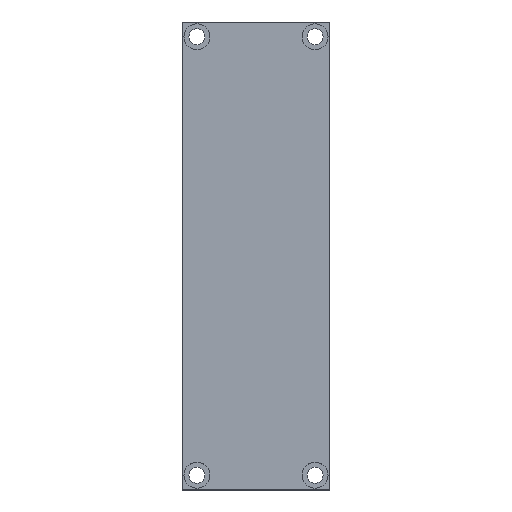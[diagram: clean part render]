
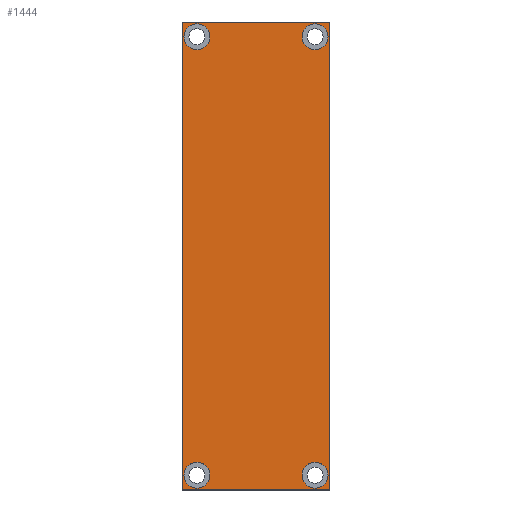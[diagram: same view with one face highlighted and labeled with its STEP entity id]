
A CAD part, top view. The second image highlights one B-rep face of the part: STEP entity #1444.
In plain terms, the highlighted planar face has unit normal (0, 0, 1).
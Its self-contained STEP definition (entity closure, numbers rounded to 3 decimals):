
#216=CARTESIAN_POINT('',(29.25,184.,5.0));
#217=VERTEX_POINT('',#216);
#233=CARTESIAN_POINT('',(18.75,184.,5.0));
#234=VERTEX_POINT('',#233);
#241=CARTESIAN_POINT('',(24.,184.,5.0));
#242=DIRECTION('',(0.0,0.0,-1.0));
#243=DIRECTION('',(1.0,0.0,0.0));
#244=AXIS2_PLACEMENT_3D('',#241,#242,#243);
#245=CIRCLE('',#244,5.25);
#246=EDGE_CURVE('',#217,#234,#245,.T.);
#342=CARTESIAN_POINT('',(29.25,6.,5.0));
#343=VERTEX_POINT('',#342);
#359=CARTESIAN_POINT('',(18.75,6.,5.0));
#360=VERTEX_POINT('',#359);
#367=CARTESIAN_POINT('',(24.,6.,5.0));
#368=DIRECTION('',(0.0,0.0,-1.0));
#369=DIRECTION('',(1.0,0.0,0.0));
#370=AXIS2_PLACEMENT_3D('',#367,#368,#369);
#371=CIRCLE('',#370,5.25);
#372=EDGE_CURVE('',#343,#360,#371,.T.);
#468=CARTESIAN_POINT('',(-18.75,6.,5.0));
#469=VERTEX_POINT('',#468);
#485=CARTESIAN_POINT('',(-29.25,6.,5.0));
#486=VERTEX_POINT('',#485);
#493=CARTESIAN_POINT('',(-24.,6.,5.0));
#494=DIRECTION('',(0.0,0.0,-1.0));
#495=DIRECTION('',(1.0,0.0,0.0));
#496=AXIS2_PLACEMENT_3D('',#493,#494,#495);
#497=CIRCLE('',#496,5.25);
#498=EDGE_CURVE('',#469,#486,#497,.T.);
#594=CARTESIAN_POINT('',(-18.75,184.,5.0));
#595=VERTEX_POINT('',#594);
#611=CARTESIAN_POINT('',(-29.25,184.,5.0));
#612=VERTEX_POINT('',#611);
#619=CARTESIAN_POINT('',(-24.,184.,5.0));
#620=DIRECTION('',(0.0,0.0,-1.0));
#621=DIRECTION('',(1.0,0.0,0.0));
#622=AXIS2_PLACEMENT_3D('',#619,#620,#621);
#623=CIRCLE('',#622,5.25);
#624=EDGE_CURVE('',#595,#612,#623,.T.);
#938=CARTESIAN_POINT('',(-24.,184.,5.0));
#939=DIRECTION('',(0.0,0.0,-1.0));
#940=DIRECTION('',(1.0,0.0,0.0));
#941=AXIS2_PLACEMENT_3D('',#938,#939,#940);
#942=CIRCLE('',#941,5.25);
#943=EDGE_CURVE('',#612,#595,#942,.T.);
#1042=CARTESIAN_POINT('',(-24.,6.,5.0));
#1043=DIRECTION('',(0.0,0.0,-1.0));
#1044=DIRECTION('',(1.0,0.0,0.0));
#1045=AXIS2_PLACEMENT_3D('',#1042,#1043,#1044);
#1046=CIRCLE('',#1045,5.25);
#1047=EDGE_CURVE('',#486,#469,#1046,.T.);
#1140=CARTESIAN_POINT('',(24.,6.,5.0));
#1141=DIRECTION('',(0.0,0.0,-1.0));
#1142=DIRECTION('',(1.0,0.0,0.0));
#1143=AXIS2_PLACEMENT_3D('',#1140,#1141,#1142);
#1144=CIRCLE('',#1143,5.25);
#1145=EDGE_CURVE('',#360,#343,#1144,.T.);
#1238=CARTESIAN_POINT('',(24.,184.,5.0));
#1239=DIRECTION('',(0.0,0.0,-1.0));
#1240=DIRECTION('',(1.0,0.0,0.0));
#1241=AXIS2_PLACEMENT_3D('',#1238,#1239,#1240);
#1242=CIRCLE('',#1241,5.25);
#1243=EDGE_CURVE('',#234,#217,#1242,.T.);
#1294=CARTESIAN_POINT('',(-30.0,190.0,5.0));
#1295=VERTEX_POINT('',#1294);
#1312=CARTESIAN_POINT('',(-30.0,0.0,5.0));
#1313=VERTEX_POINT('',#1312);
#1320=CARTESIAN_POINT('',(-30.0,0.0,5.0));
#1321=DIRECTION('',(0.0,1.0,0.0));
#1322=VECTOR('',#1321,190.0);
#1323=LINE('',#1320,#1322);
#1324=EDGE_CURVE('',#1313,#1295,#1323,.T.);
#1381=CARTESIAN_POINT('',(30.0,190.0,5.0));
#1382=VERTEX_POINT('',#1381);
#1389=CARTESIAN_POINT('',(30.0,0.0,5.0));
#1390=VERTEX_POINT('',#1389);
#1391=CARTESIAN_POINT('',(30.0,0.0,5.0));
#1392=DIRECTION('',(0.0,1.0,0.0));
#1393=VECTOR('',#1392,190.0);
#1394=LINE('',#1391,#1393);
#1395=EDGE_CURVE('',#1390,#1382,#1394,.T.);
#1407=CARTESIAN_POINT('',(30.0,0.0,5.0));
#1408=DIRECTION('',(0.0,0.0,1.0));
#1409=DIRECTION('',(1.0,0.0,0.0));
#1410=AXIS2_PLACEMENT_3D('',#1407,#1408,#1409);
#1411=PLANE('',#1410);
#1412=CARTESIAN_POINT('',(30.0,190.0,5.0));
#1413=DIRECTION('',(-1.0,0.0,0.0));
#1414=VECTOR('',#1413,60.0);
#1415=LINE('',#1412,#1414);
#1416=EDGE_CURVE('',#1382,#1295,#1415,.T.);
#1417=ORIENTED_EDGE('',*,*,#1416,.T.);
#1418=ORIENTED_EDGE('',*,*,#1324,.F.);
#1419=CARTESIAN_POINT('',(30.0,0.0,5.0));
#1420=DIRECTION('',(-1.0,0.0,0.0));
#1421=VECTOR('',#1420,60.0);
#1422=LINE('',#1419,#1421);
#1423=EDGE_CURVE('',#1390,#1313,#1422,.T.);
#1424=ORIENTED_EDGE('',*,*,#1423,.F.);
#1425=ORIENTED_EDGE('',*,*,#1395,.T.);
#1426=EDGE_LOOP('',(#1417,#1418,#1424,#1425));
#1427=FACE_OUTER_BOUND('',#1426,.T.);
#1428=ORIENTED_EDGE('',*,*,#624,.T.);
#1429=ORIENTED_EDGE('',*,*,#943,.T.);
#1430=EDGE_LOOP('',(#1428,#1429));
#1431=FACE_BOUND('',#1430,.T.);
#1432=ORIENTED_EDGE('',*,*,#498,.T.);
#1433=ORIENTED_EDGE('',*,*,#1047,.T.);
#1434=EDGE_LOOP('',(#1432,#1433));
#1435=FACE_BOUND('',#1434,.T.);
#1436=ORIENTED_EDGE('',*,*,#372,.T.);
#1437=ORIENTED_EDGE('',*,*,#1145,.T.);
#1438=EDGE_LOOP('',(#1436,#1437));
#1439=FACE_BOUND('',#1438,.T.);
#1440=ORIENTED_EDGE('',*,*,#246,.T.);
#1441=ORIENTED_EDGE('',*,*,#1243,.T.);
#1442=EDGE_LOOP('',(#1440,#1441));
#1443=FACE_BOUND('',#1442,.T.);
#1444=ADVANCED_FACE('',(#1427,#1431,#1435,#1439,#1443),#1411,.T.);
